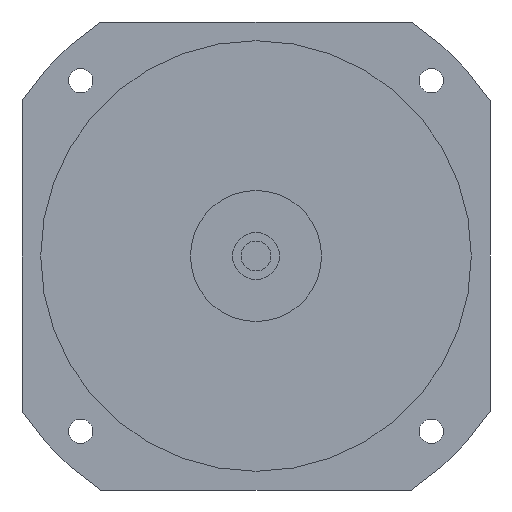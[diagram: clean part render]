
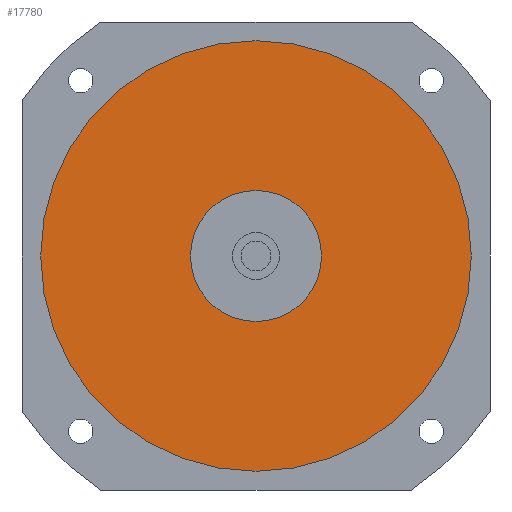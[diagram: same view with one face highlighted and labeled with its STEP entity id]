
A CAD part, left-side view. The second image highlights one B-rep face of the part: STEP entity #17780.
In plain terms, the highlighted planar face has unit normal (-1, 0, 0) as drawn and (0, 0, -1) by its records, which use the part's own axes.
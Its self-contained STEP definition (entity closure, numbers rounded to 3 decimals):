
#17200=CARTESIAN_POINT('',(115.,0.,-55.2));
#17210=VERTEX_POINT('',#17200);
#17300=CARTESIAN_POINT('',(-115.,0.,-55.2));
#17310=VERTEX_POINT('',#17300);
#17340=CARTESIAN_POINT('',(0.,0.,
-55.2));
#17350=DIRECTION('',(0.,0.,1.));
#17360=DIRECTION('',(0.,1.,0.));
#17370=AXIS2_PLACEMENT_3D('',#17340,#17350,#17360);
#17380=CIRCLE('',#17370,115.);
#17390=CARTESIAN_POINT('',(0.,115.,-55.2));
#17400=VERTEX_POINT('',#17390);
#17410=EDGE_CURVE('',#17400,#17310,#17380,.T.);
#17430=EDGE_CURVE('',#17210,#17400,#17380,.T.);
#17480=CARTESIAN_POINT('',(0.,0.,
-55.2));
#17490=DIRECTION('',(0.,0.,1.));
#17500=DIRECTION('',(-1.,0.,0.));
#17510=AXIS2_PLACEMENT_3D('',#17480,#17490,#17500);
#17520=PLANE('',#17510);
#17530=CARTESIAN_POINT('',(0.,0.,
-55.2));
#17540=DIRECTION('',(0.,0.,1.));
#17550=DIRECTION('',(0.,1.,0.));
#17560=AXIS2_PLACEMENT_3D('',#17530,#17540,#17550);
#17570=CIRCLE('',#17560,35.);
#17580=CARTESIAN_POINT('',(-35.,0.,-55.2));
#17590=VERTEX_POINT('',#17580);
#17600=CARTESIAN_POINT('',(35.,0.,-55.2));
#17610=VERTEX_POINT('',#17600);
#17620=EDGE_CURVE('',#17590,#17610,#17570,.T.);
#17630=ORIENTED_EDGE('',*,*,#17620,.T.);
#17640=CARTESIAN_POINT('',(0.,35.,-55.2));
#17650=VERTEX_POINT('',#17640);
#17660=EDGE_CURVE('',#17650,#17590,#17570,.T.);
#17670=ORIENTED_EDGE('',*,*,#17660,.T.);
#17680=EDGE_CURVE('',#17610,#17650,#17570,.T.);
#17690=ORIENTED_EDGE('',*,*,#17680,.T.);
#17700=EDGE_LOOP('',(#17690,#17670,#17630));
#17710=FACE_BOUND('',#17700,.T.);
#17720=ORIENTED_EDGE('',*,*,#17410,.F.);
#17730=EDGE_CURVE('',#17310,#17210,#17380,.T.);
#17740=ORIENTED_EDGE('',*,*,#17730,.F.);
#17750=ORIENTED_EDGE('',*,*,#17430,.F.);
#17760=EDGE_LOOP('',(#17750,#17740,#17720));
#17770=FACE_OUTER_BOUND('',#17760,.T.);
#17780=ADVANCED_FACE('',(#17710,#17770),#17520,.F.);
